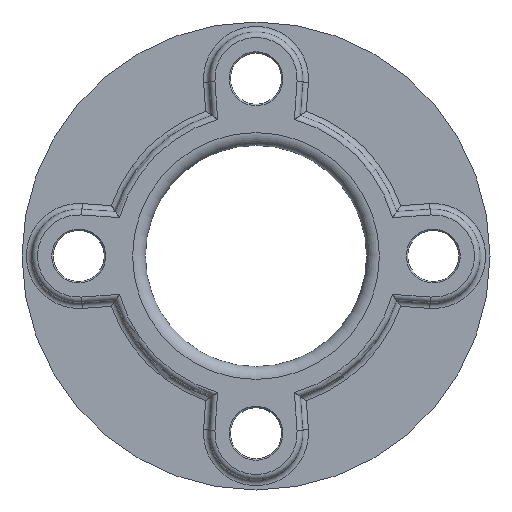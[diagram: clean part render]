
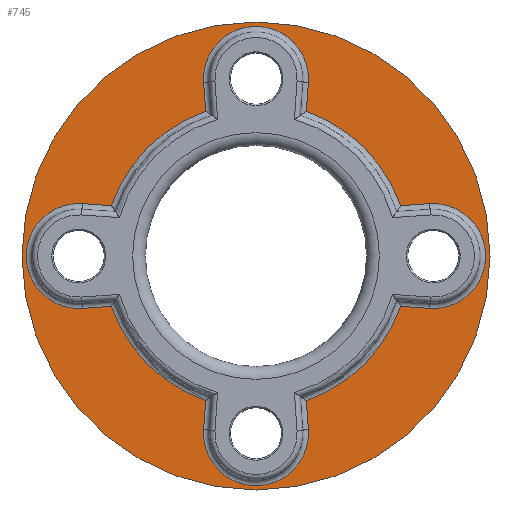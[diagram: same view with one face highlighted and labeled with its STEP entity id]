
A CAD part, front view. The second image highlights one B-rep face of the part: STEP entity #745.
In plain terms, the highlighted planar face has unit normal (0, -1, 0).
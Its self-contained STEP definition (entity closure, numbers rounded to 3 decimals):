
#62=LINE('',#1252,#86);
#63=LINE('',#1257,#87);
#64=LINE('',#1261,#88);
#65=LINE('',#1265,#89);
#66=LINE('',#1269,#90);
#67=LINE('',#1273,#91);
#68=LINE('',#1277,#92);
#69=LINE('',#1281,#93);
#86=VECTOR('',#1010,1000.);
#87=VECTOR('',#1013,1000.);
#88=VECTOR('',#1016,1000.);
#89=VECTOR('',#1019,1000.);
#90=VECTOR('',#1022,1000.);
#91=VECTOR('',#1025,1000.);
#92=VECTOR('',#1028,1000.);
#93=VECTOR('',#1031,1000.);
#104=PLANE('',#839);
#168=ORIENTED_EDGE('',*,*,#355,.T.);
#169=ORIENTED_EDGE('',*,*,#356,.T.);
#170=ORIENTED_EDGE('',*,*,#357,.T.);
#171=ORIENTED_EDGE('',*,*,#358,.T.);
#172=ORIENTED_EDGE('',*,*,#359,.T.);
#173=ORIENTED_EDGE('',*,*,#360,.T.);
#174=ORIENTED_EDGE('',*,*,#361,.T.);
#175=ORIENTED_EDGE('',*,*,#362,.T.);
#176=ORIENTED_EDGE('',*,*,#363,.T.);
#177=ORIENTED_EDGE('',*,*,#364,.T.);
#178=ORIENTED_EDGE('',*,*,#365,.T.);
#179=ORIENTED_EDGE('',*,*,#366,.T.);
#180=ORIENTED_EDGE('',*,*,#367,.T.);
#181=ORIENTED_EDGE('',*,*,#368,.T.);
#182=ORIENTED_EDGE('',*,*,#369,.T.);
#183=ORIENTED_EDGE('',*,*,#370,.T.);
#184=ORIENTED_EDGE('',*,*,#331,.F.);
#331=EDGE_CURVE('',#433,#433,#503,.T.);
#355=EDGE_CURVE('',#457,#458,#62,.T.);
#356=EDGE_CURVE('',#458,#459,#519,.T.);
#357=EDGE_CURVE('',#459,#460,#63,.T.);
#358=EDGE_CURVE('',#460,#461,#520,.T.);
#359=EDGE_CURVE('',#461,#462,#64,.T.);
#360=EDGE_CURVE('',#462,#463,#521,.T.);
#361=EDGE_CURVE('',#463,#464,#65,.T.);
#362=EDGE_CURVE('',#464,#465,#522,.T.);
#363=EDGE_CURVE('',#465,#466,#66,.T.);
#364=EDGE_CURVE('',#466,#467,#523,.T.);
#365=EDGE_CURVE('',#467,#468,#67,.T.);
#366=EDGE_CURVE('',#468,#469,#524,.T.);
#367=EDGE_CURVE('',#469,#470,#68,.T.);
#368=EDGE_CURVE('',#470,#471,#525,.T.);
#369=EDGE_CURVE('',#471,#472,#69,.T.);
#370=EDGE_CURVE('',#472,#457,#526,.T.);
#433=VERTEX_POINT('',#1199);
#457=VERTEX_POINT('',#1253);
#458=VERTEX_POINT('',#1254);
#459=VERTEX_POINT('',#1256);
#460=VERTEX_POINT('',#1258);
#461=VERTEX_POINT('',#1260);
#462=VERTEX_POINT('',#1262);
#463=VERTEX_POINT('',#1264);
#464=VERTEX_POINT('',#1266);
#465=VERTEX_POINT('',#1268);
#466=VERTEX_POINT('',#1270);
#467=VERTEX_POINT('',#1272);
#468=VERTEX_POINT('',#1274);
#469=VERTEX_POINT('',#1276);
#470=VERTEX_POINT('',#1278);
#471=VERTEX_POINT('',#1280);
#472=VERTEX_POINT('',#1282);
#503=CIRCLE('',#818,82.5);
#519=CIRCLE('',#840,54.);
#520=CIRCLE('',#841,18.5);
#521=CIRCLE('',#842,54.);
#522=CIRCLE('',#843,18.5);
#523=CIRCLE('',#844,54.);
#524=CIRCLE('',#845,18.5);
#525=CIRCLE('',#846,54.);
#526=CIRCLE('',#847,18.5);
#591=EDGE_LOOP('',(#168,#169,#170,#171,#172,#173,#174,#175,#176,#177,#178,
#179,#180,#181,#182,#183));
#592=EDGE_LOOP('',(#184));
#669=FACE_BOUND('',#591,.T.);
#670=FACE_BOUND('',#592,.T.);
#745=ADVANCED_FACE('',(#669,#670),#104,.F.);
#818=AXIS2_PLACEMENT_3D('',#1198,#958,#959);
#839=AXIS2_PLACEMENT_3D('',#1251,#1008,#1009);
#840=AXIS2_PLACEMENT_3D('',#1255,#1011,#1012);
#841=AXIS2_PLACEMENT_3D('',#1259,#1014,#1015);
#842=AXIS2_PLACEMENT_3D('',#1263,#1017,#1018);
#843=AXIS2_PLACEMENT_3D('',#1267,#1020,#1021);
#844=AXIS2_PLACEMENT_3D('',#1271,#1023,#1024);
#845=AXIS2_PLACEMENT_3D('',#1275,#1026,#1027);
#846=AXIS2_PLACEMENT_3D('',#1279,#1029,#1030);
#847=AXIS2_PLACEMENT_3D('',#1283,#1032,#1033);
#958=DIRECTION('',(0.,1.,0.));
#959=DIRECTION('',(1.,0.,0.));
#1008=DIRECTION('',(0.,1.,0.));
#1009=DIRECTION('',(0.,0.,1.));
#1010=DIRECTION('',(-0.069,0.,-0.998));
#1011=DIRECTION('',(0.,1.,0.));
#1012=DIRECTION('',(0.,0.,1.));
#1013=DIRECTION('',(0.998,0.,0.069));
#1014=DIRECTION('',(0.,1.,0.));
#1015=DIRECTION('',(0.,0.,1.));
#1016=DIRECTION('',(-0.998,0.,0.069));
#1017=DIRECTION('',(0.,1.,0.));
#1018=DIRECTION('',(0.,0.,1.));
#1019=DIRECTION('',(0.069,0.,-0.998));
#1020=DIRECTION('',(0.,1.,0.));
#1021=DIRECTION('',(0.,0.,1.));
#1022=DIRECTION('',(0.069,0.,0.998));
#1023=DIRECTION('',(0.,1.,0.));
#1024=DIRECTION('',(0.,0.,1.));
#1025=DIRECTION('',(-0.998,0.,-0.069));
#1026=DIRECTION('',(0.,1.,0.));
#1027=DIRECTION('',(0.,0.,1.));
#1028=DIRECTION('',(0.998,0.,-0.069));
#1029=DIRECTION('',(0.,1.,0.));
#1030=DIRECTION('',(0.,0.,1.));
#1031=DIRECTION('',(-0.069,0.,0.998));
#1032=DIRECTION('',(0.,1.,0.));
#1033=DIRECTION('',(0.,0.,1.));
#1198=CARTESIAN_POINT('',(0.,4.,0.));
#1199=CARTESIAN_POINT('',(82.5,4.,0.));
#1251=CARTESIAN_POINT('',(0.,4.,0.));
#1252=CARTESIAN_POINT('',(17.644,4.,49.452));
#1253=CARTESIAN_POINT('',(18.456,4.,61.227));
#1254=CARTESIAN_POINT('',(17.75,4.,50.999));
#1255=CARTESIAN_POINT('',(0.,4.,0.));
#1256=CARTESIAN_POINT('',(50.999,4.,17.75));
#1257=CARTESIAN_POINT('',(61.227,4.,18.456));
#1258=CARTESIAN_POINT('',(61.227,4.,18.456));
#1259=CARTESIAN_POINT('',(62.5,4.,0.));
#1260=CARTESIAN_POINT('',(61.227,4.,-18.456));
#1261=CARTESIAN_POINT('',(49.452,4.,-17.644));
#1262=CARTESIAN_POINT('',(50.999,4.,-17.75));
#1263=CARTESIAN_POINT('',(0.,4.,0.));
#1264=CARTESIAN_POINT('',(17.75,4.,-50.999));
#1265=CARTESIAN_POINT('',(18.456,4.,-61.227));
#1266=CARTESIAN_POINT('',(18.456,4.,-61.227));
#1267=CARTESIAN_POINT('',(0.,4.,-62.5));
#1268=CARTESIAN_POINT('',(-18.456,4.,-61.227));
#1269=CARTESIAN_POINT('',(-17.644,4.,-49.452));
#1270=CARTESIAN_POINT('',(-17.75,4.,-50.999));
#1271=CARTESIAN_POINT('',(0.,4.,0.));
#1272=CARTESIAN_POINT('',(-50.999,4.,-17.75));
#1273=CARTESIAN_POINT('',(-61.227,4.,-18.456));
#1274=CARTESIAN_POINT('',(-61.227,4.,-18.456));
#1275=CARTESIAN_POINT('',(-62.5,4.,0.));
#1276=CARTESIAN_POINT('',(-61.227,4.,18.456));
#1277=CARTESIAN_POINT('',(-49.452,4.,17.644));
#1278=CARTESIAN_POINT('',(-50.999,4.,17.75));
#1279=CARTESIAN_POINT('',(0.,4.,0.));
#1280=CARTESIAN_POINT('',(-17.75,4.,50.999));
#1281=CARTESIAN_POINT('',(-18.456,4.,61.227));
#1282=CARTESIAN_POINT('',(-18.456,4.,61.227));
#1283=CARTESIAN_POINT('',(0.,4.,62.5));
